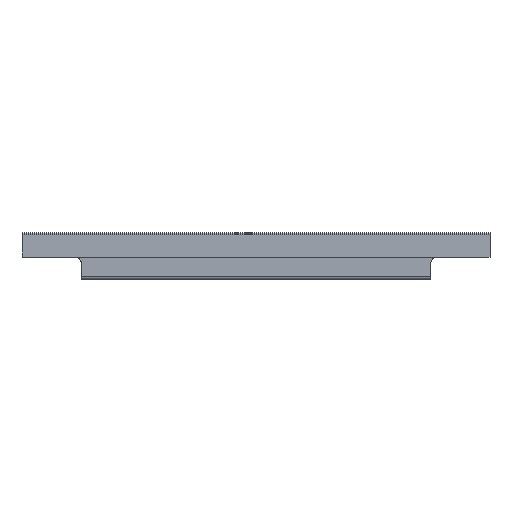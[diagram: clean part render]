
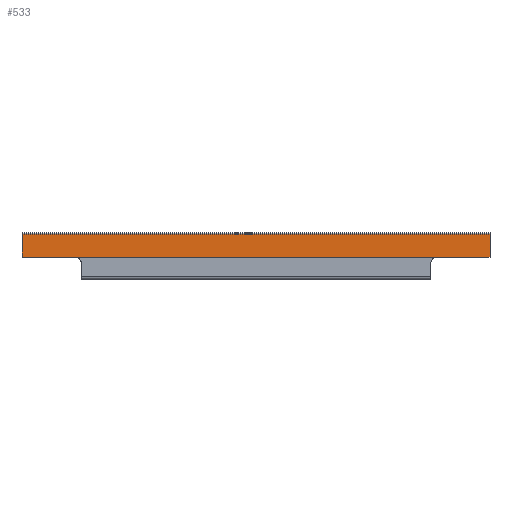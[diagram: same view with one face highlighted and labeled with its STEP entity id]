
A CAD part, top view. The second image highlights one B-rep face of the part: STEP entity #533.
In plain terms, the highlighted planar face has unit normal (0, 0, 1).
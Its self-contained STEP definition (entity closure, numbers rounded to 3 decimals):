
#297 = EDGE_CURVE( '', #393, #621, #772, .T. );
#331 = EDGE_CURVE( '', #659, #519, #810, .T. );
#393 = VERTEX_POINT( '', #876 );
#399 = EDGE_CURVE( '', #621, #633, #882, .T. );
#467 = EDGE_CURVE( '', #393, #659, #955, .T. );
#519 = VERTEX_POINT( '', #1012 );
#523 = EDGE_CURVE( '', #691, #633, #1016, .T. );
#533 = ADVANCED_FACE( '', ( #1026 ), #1027, .T. );
#621 = VERTEX_POINT( '', #1127 );
#633 = VERTEX_POINT( '', #1141 );
#659 = VERTEX_POINT( '', #1168 );
#675 = EDGE_CURVE( '', #519, #691, #1184, .T. );
#691 = VERTEX_POINT( '', #1201 );
#772 = LINE( '', #1290, #1291 );
#810 = LINE( '', #1351, #1352 );
#876 = CARTESIAN_POINT( '', ( 197.5, 8.286, 3. ) );
#882 = LINE( '', #1459, #1460 );
#955 = LINE( '', #1566, #1567 );
#1012 = CARTESIAN_POINT( '', ( 152.5, -11., 3. ) );
#1016 = LINE( '', #1651, #1652 );
#1026 = FACE_OUTER_BOUND( '', #1667, .T. );
#1027 = PLANE( '', #1668 );
#1127 = CARTESIAN_POINT( '', ( -197.5, 8.286, 3. ) );
#1141 = CARTESIAN_POINT( '', ( -197.5, -11., 3. ) );
#1168 = CARTESIAN_POINT( '', ( 197.5, -11., 3. ) );
#1184 = LINE( '', #1874, #1875 );
#1201 = CARTESIAN_POINT( '', ( -152.5, -11., 3. ) );
#1290 = CARTESIAN_POINT( '', ( 197.5, 8.286, 3. ) );
#1291 = VECTOR( '', #1974, 1. );
#1351 = CARTESIAN_POINT( '', ( 197.5, -11., 3. ) );
#1352 = VECTOR( '', #2026, 1. );
#1459 = CARTESIAN_POINT( '', ( -197.5, 8.286, 3. ) );
#1460 = VECTOR( '', #2081, 1. );
#1566 = CARTESIAN_POINT( '', ( 197.5, 8.286, 3. ) );
#1567 = VECTOR( '', #2159, 1. );
#1651 = CARTESIAN_POINT( '', ( 197.5, -11., 3. ) );
#1652 = VECTOR( '', #2227, 1. );
#1667 = EDGE_LOOP( '', ( #2234, #2235, #2236, #2237, #2238, #2239 ) );
#1668 = AXIS2_PLACEMENT_3D( '', #2240, #2241, #2242 );
#1874 = CARTESIAN_POINT( '', ( 197.5, -11., 3. ) );
#1875 = VECTOR( '', #2440, 1. );
#1974 = DIRECTION( '', ( -1., 0., 0. ) );
#2026 = DIRECTION( '', ( -1., 0., 0. ) );
#2081 = DIRECTION( '', ( 0., -1., 0. ) );
#2159 = DIRECTION( '', ( 0., -1., 0. ) );
#2227 = DIRECTION( '', ( -1., 0., 0. ) );
#2234 = ORIENTED_EDGE( '', *, *, #399, .T. );
#2235 = ORIENTED_EDGE( '', *, *, #523, .F. );
#2236 = ORIENTED_EDGE( '', *, *, #675, .F. );
#2237 = ORIENTED_EDGE( '', *, *, #331, .F. );
#2238 = ORIENTED_EDGE( '', *, *, #467, .F. );
#2239 = ORIENTED_EDGE( '', *, *, #297, .T. );
#2240 = CARTESIAN_POINT( '', ( 197.5, 8.286, 3. ) );
#2241 = DIRECTION( '', ( 0., 0., 1. ) );
#2242 = DIRECTION( '', ( 0., 1., 0. ) );
#2440 = DIRECTION( '', ( -1., 0., 0. ) );
